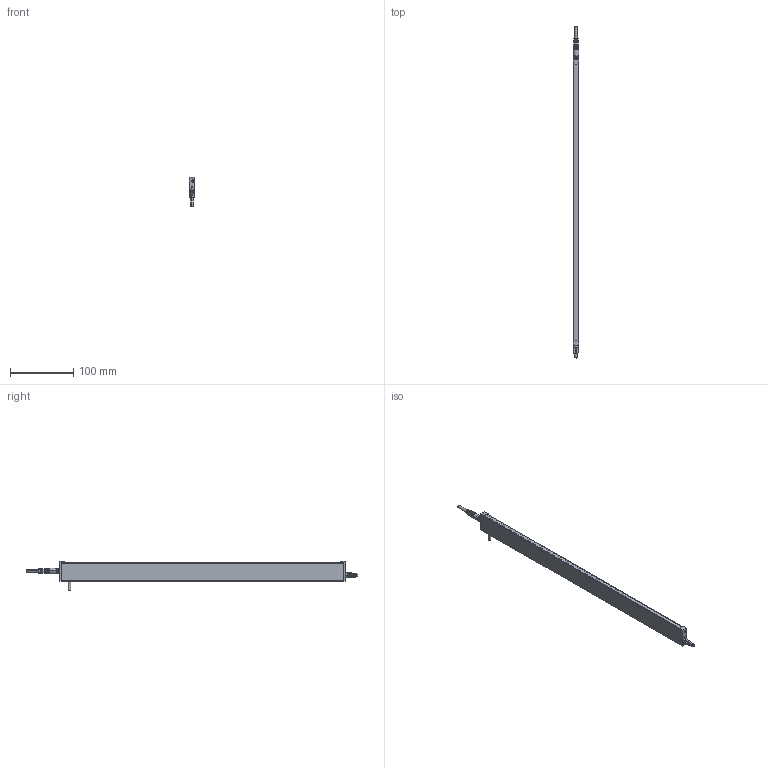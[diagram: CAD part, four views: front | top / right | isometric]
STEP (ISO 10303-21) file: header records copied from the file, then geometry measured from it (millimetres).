
FILE_DESCRIPTION (( 'STEP AP214' ), '1' );
FILE_NAME ('ILG-B-K2-0450mm.STEP', '2017-07-10T12:39:45', ( '' ), ( '' ), 'SwSTEP 2.0', 'SolidWorks 2016', '' );
FILE_SCHEMA (( 'AUTOMOTIVE_DESIGN' ));
Length unit declared in the file: millimetre
Products named in the file (1): ILG-B-K2-0450mm
Bounding box: 9 x 523.5 x 46.21 mm (x, y, z)
Surface area: 79437.2 mm2 (no closed solid volume)
Topology: 0 solids, 14 shells, 693 faces, 1806 edges, 1147 vertices
Faces by surface type: cylinder 283, plane 263, cone 97, bspline 32, torus 18
Entity records: 31061 total; most frequent: CARTESIAN_POINT 6596, ORIENTED_EDGE 3565, DIRECTION 3444, EDGE_CURVE 1790, AXIS2_PLACEMENT_3D 1323, VERTEX_POINT 1147, VECTOR 798, LINE 798
